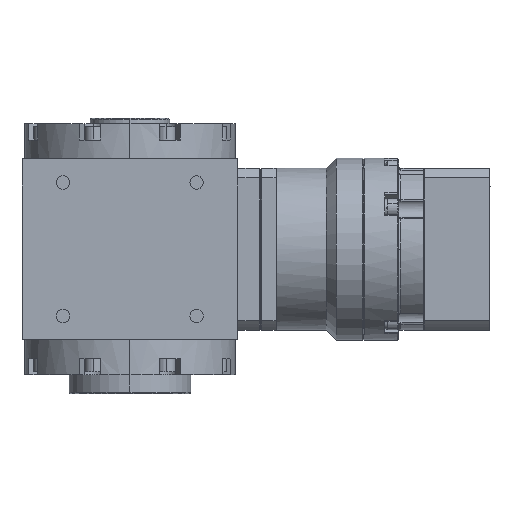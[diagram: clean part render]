
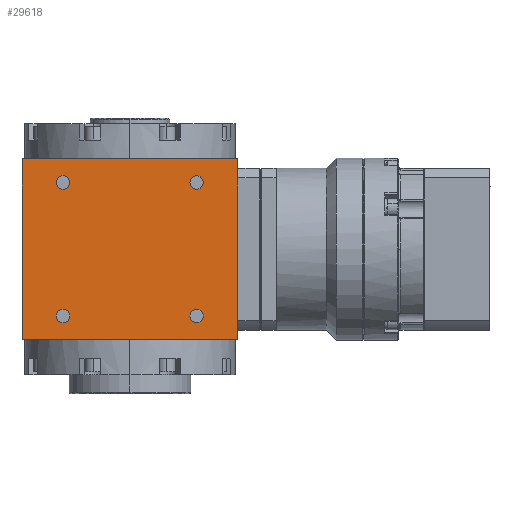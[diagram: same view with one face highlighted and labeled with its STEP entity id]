
A CAD part, left-side view. The second image highlights one B-rep face of the part: STEP entity #29618.
In plain terms, the highlighted planar face has unit normal (-1, 0, 0).
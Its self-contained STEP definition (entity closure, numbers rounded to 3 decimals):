
#124 = AXIS2_PLACEMENT_3D ( 'NONE', #17034, #19573, #34888 ) ;
#316 = DIRECTION ( 'NONE',  ( 1., 0., 0. ) ) ;
#510 = DIRECTION ( 'NONE',  ( 0., -1., 0. ) ) ;
#685 = CARTESIAN_POINT ( 'NONE',  ( -40., -27.249, 24.749 ) ) ;
#1329 = FACE_BOUND ( 'NONE', #12359, .T. ) ;
#2340 = ORIENTED_EDGE ( 'NONE', *, *, #27470, .T. ) ;
#2600 = DIRECTION ( 'NONE',  ( 0., 0., 1. ) ) ;
#2999 = DIRECTION ( 'NONE',  ( 1., 0., 0. ) ) ;
#3413 = VERTEX_POINT ( 'NONE', #19042 ) ;
#4096 = DIRECTION ( 'NONE',  ( 0., 0., 1. ) ) ;
#4671 = FACE_BOUND ( 'NONE', #25140, .T. ) ;
#4718 = VECTOR ( 'NONE', #36905, 1000. ) ;
#4846 = CIRCLE ( 'NONE', #6108, 2.5 ) ;
#4857 = FACE_BOUND ( 'NONE', #31014, .T. ) ;
#5653 = CIRCLE ( 'NONE', #25729, 2.5 ) ;
#6108 = AXIS2_PLACEMENT_3D ( 'NONE', #37536, #10629, #22606 ) ;
#6701 = CARTESIAN_POINT ( 'NONE',  ( -40., 27.249, -24.749 ) ) ;
#7185 = EDGE_CURVE ( 'NONE', #28898, #21390, #26174, .T. ) ;
#7204 = EDGE_LOOP ( 'NONE', ( #32373, #33602, #23962, #12546 ) ) ;
#7556 = VECTOR ( 'NONE', #2600, 1000. ) ;
#7610 = FACE_BOUND ( 'NONE', #38210, .T. ) ;
#7837 = ORIENTED_EDGE ( 'NONE', *, *, #38787, .T. ) ;
#8227 = AXIS2_PLACEMENT_3D ( 'NONE', #31038, #10220, #33598 ) ;
#8339 = VERTEX_POINT ( 'NONE', #37760 ) ;
#8816 = ORIENTED_EDGE ( 'NONE', *, *, #11431, .T. ) ;
#8961 = VERTEX_POINT ( 'NONE', #23570 ) ;
#9432 = CARTESIAN_POINT ( 'NONE',  ( -40., -27.249, -24.749 ) ) ;
#9909 = CARTESIAN_POINT ( 'NONE',  ( -40., 40., -33.5 ) ) ;
#10003 = ORIENTED_EDGE ( 'NONE', *, *, #15441, .T. ) ;
#10095 = VECTOR ( 'NONE', #29782, 1000. ) ;
#10220 = DIRECTION ( 'NONE',  ( 1., 0., 0. ) ) ;
#10447 = VERTEX_POINT ( 'NONE', #11132 ) ;
#10629 = DIRECTION ( 'NONE',  ( 1., 0., 0. ) ) ;
#10729 = CARTESIAN_POINT ( 'NONE',  ( -40., 24.749, -24.749 ) ) ;
#11132 = CARTESIAN_POINT ( 'NONE',  ( -40., 22.249, 24.749 ) ) ;
#11431 = EDGE_CURVE ( 'NONE', #10447, #33454, #30570, .T. ) ;
#11649 = VERTEX_POINT ( 'NONE', #9432 ) ;
#12183 = EDGE_CURVE ( 'NONE', #27709, #8961, #18831, .T. ) ;
#12359 = EDGE_LOOP ( 'NONE', ( #2340, #10003 ) ) ;
#12546 = ORIENTED_EDGE ( 'NONE', *, *, #34012, .F. ) ;
#12769 = EDGE_CURVE ( 'NONE', #11649, #8339, #35189, .T. ) ;
#13506 = CARTESIAN_POINT ( 'NONE',  ( -40., -24.749, 24.749 ) ) ;
#13574 = AXIS2_PLACEMENT_3D ( 'NONE', #24458, #316, #510 ) ;
#13983 = CARTESIAN_POINT ( 'NONE',  ( -40., 40., -33.5 ) ) ;
#14727 = EDGE_CURVE ( 'NONE', #28898, #20390, #18659, .T. ) ;
#15441 = EDGE_CURVE ( 'NONE', #36049, #32665, #16682, .T. ) ;
#16250 = CARTESIAN_POINT ( 'NONE',  ( -40., -40., -33.5 ) ) ;
#16493 = EDGE_CURVE ( 'NONE', #3413, #20390, #32331, .T. ) ;
#16650 = PLANE ( 'NONE',  #28354 ) ;
#16682 = CIRCLE ( 'NONE', #13574, 2.5 ) ;
#17034 = CARTESIAN_POINT ( 'NONE',  ( -40., 24.749, 24.749 ) ) ;
#17337 = DIRECTION ( 'NONE',  ( 0., -1., 0. ) ) ;
#17675 = EDGE_CURVE ( 'NONE', #33454, #10447, #22706, .T. ) ;
#18236 = CARTESIAN_POINT ( 'NONE',  ( -40., 0., 33.5 ) ) ;
#18659 = LINE ( 'NONE', #30242, #4718 ) ;
#18800 = ORIENTED_EDGE ( 'NONE', *, *, #17675, .T. ) ;
#18831 = CIRCLE ( 'NONE', #31386, 2.5 ) ;
#19042 = CARTESIAN_POINT ( 'NONE',  ( -40., -40., 33.5 ) ) ;
#19572 = ORIENTED_EDGE ( 'NONE', *, *, #22372, .T. ) ;
#19573 = DIRECTION ( 'NONE',  ( 1., 0., 0. ) ) ;
#20248 = DIRECTION ( 'NONE',  ( 0., -1., 0. ) ) ;
#20352 = CARTESIAN_POINT ( 'NONE',  ( -40., -40., -33.5 ) ) ;
#20390 = VERTEX_POINT ( 'NONE', #16250 ) ;
#20648 = DIRECTION ( 'NONE',  ( 1., 0., 0. ) ) ;
#21174 = LINE ( 'NONE', #18236, #23551 ) ;
#21390 = VERTEX_POINT ( 'NONE', #26117 ) ;
#21719 = CIRCLE ( 'NONE', #38038, 2.5 ) ;
#22372 = EDGE_CURVE ( 'NONE', #8961, #27709, #5653, .T. ) ;
#22606 = DIRECTION ( 'NONE',  ( 0., -1., 0. ) ) ;
#22704 = DIRECTION ( 'NONE',  ( 1., 0., 0. ) ) ;
#22706 = CIRCLE ( 'NONE', #124, 2.5 ) ;
#23084 = ORIENTED_EDGE ( 'NONE', *, *, #12769, .T. ) ;
#23551 = VECTOR ( 'NONE', #36290, 1000. ) ;
#23570 = CARTESIAN_POINT ( 'NONE',  ( -40., -22.249, 24.749 ) ) ;
#23962 = ORIENTED_EDGE ( 'NONE', *, *, #16493, .F. ) ;
#24458 = CARTESIAN_POINT ( 'NONE',  ( -40., 24.749, -24.749 ) ) ;
#24829 = CARTESIAN_POINT ( 'NONE',  ( -40., 22.249, -24.749 ) ) ;
#25140 = EDGE_LOOP ( 'NONE', ( #23084, #7837 ) ) ;
#25636 = ORIENTED_EDGE ( 'NONE', *, *, #12183, .T. ) ;
#25729 = AXIS2_PLACEMENT_3D ( 'NONE', #29891, #2999, #17337 ) ;
#26117 = CARTESIAN_POINT ( 'NONE',  ( -40., 40., 33.5 ) ) ;
#26174 = LINE ( 'NONE', #13983, #7556 ) ;
#26411 = DIRECTION ( 'NONE',  ( 0., -1., 0. ) ) ;
#26759 = CARTESIAN_POINT ( 'NONE',  ( -40., 24.749, 24.749 ) ) ;
#27470 = EDGE_CURVE ( 'NONE', #32665, #36049, #21719, .T. ) ;
#27709 = VERTEX_POINT ( 'NONE', #685 ) ;
#28354 = AXIS2_PLACEMENT_3D ( 'NONE', #28439, #33930, #4096 ) ;
#28439 = CARTESIAN_POINT ( 'NONE',  ( -40., 40., -33.5 ) ) ;
#28898 = VERTEX_POINT ( 'NONE', #9909 ) ;
#29618 = ADVANCED_FACE ( 'NONE', ( #31565, #1329, #4671, #7610, #4857 ), #16650, .T. ) ;
#29782 = DIRECTION ( 'NONE',  ( 0., 0., -1. ) ) ;
#29891 = CARTESIAN_POINT ( 'NONE',  ( -40., -24.749, 24.749 ) ) ;
#30242 = CARTESIAN_POINT ( 'NONE',  ( -40., 0., -33.5 ) ) ;
#30570 = CIRCLE ( 'NONE', #37470, 2.5 ) ;
#31014 = EDGE_LOOP ( 'NONE', ( #8816, #18800 ) ) ;
#31038 = CARTESIAN_POINT ( 'NONE',  ( -40., -24.749, -24.749 ) ) ;
#31386 = AXIS2_PLACEMENT_3D ( 'NONE', #13506, #38180, #26411 ) ;
#31565 = FACE_OUTER_BOUND ( 'NONE', #7204, .T. ) ;
#32331 = LINE ( 'NONE', #20352, #10095 ) ;
#32373 = ORIENTED_EDGE ( 'NONE', *, *, #7185, .F. ) ;
#32665 = VERTEX_POINT ( 'NONE', #24829 ) ;
#33454 = VERTEX_POINT ( 'NONE', #34978 ) ;
#33598 = DIRECTION ( 'NONE',  ( 0., -1., 0. ) ) ;
#33602 = ORIENTED_EDGE ( 'NONE', *, *, #14727, .T. ) ;
#33930 = DIRECTION ( 'NONE',  ( -1., 0., 0. ) ) ;
#34012 = EDGE_CURVE ( 'NONE', #21390, #3413, #21174, .T. ) ;
#34677 = DIRECTION ( 'NONE',  ( 0., -1., 0. ) ) ;
#34888 = DIRECTION ( 'NONE',  ( 0., -1., 0. ) ) ;
#34978 = CARTESIAN_POINT ( 'NONE',  ( -40., 27.249, 24.749 ) ) ;
#35189 = CIRCLE ( 'NONE', #8227, 2.5 ) ;
#36049 = VERTEX_POINT ( 'NONE', #6701 ) ;
#36290 = DIRECTION ( 'NONE',  ( 0., -1., 0. ) ) ;
#36905 = DIRECTION ( 'NONE',  ( 0., -1., 0. ) ) ;
#37470 = AXIS2_PLACEMENT_3D ( 'NONE', #26759, #20648, #20248 ) ;
#37536 = CARTESIAN_POINT ( 'NONE',  ( -40., -24.749, -24.749 ) ) ;
#37760 = CARTESIAN_POINT ( 'NONE',  ( -40., -22.249, -24.749 ) ) ;
#38038 = AXIS2_PLACEMENT_3D ( 'NONE', #10729, #22704, #34677 ) ;
#38180 = DIRECTION ( 'NONE',  ( 1., 0., 0. ) ) ;
#38210 = EDGE_LOOP ( 'NONE', ( #25636, #19572 ) ) ;
#38787 = EDGE_CURVE ( 'NONE', #8339, #11649, #4846, .T. ) ;
